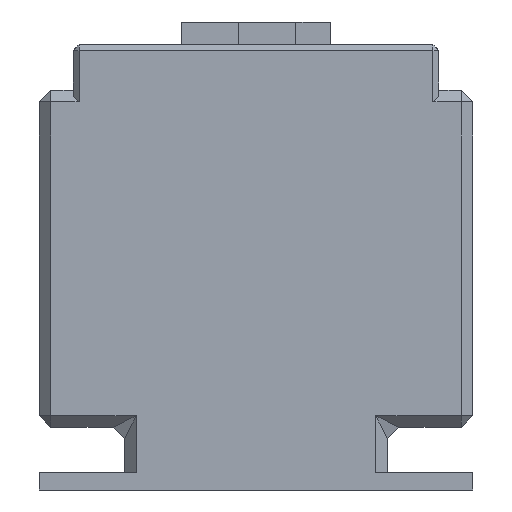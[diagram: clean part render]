
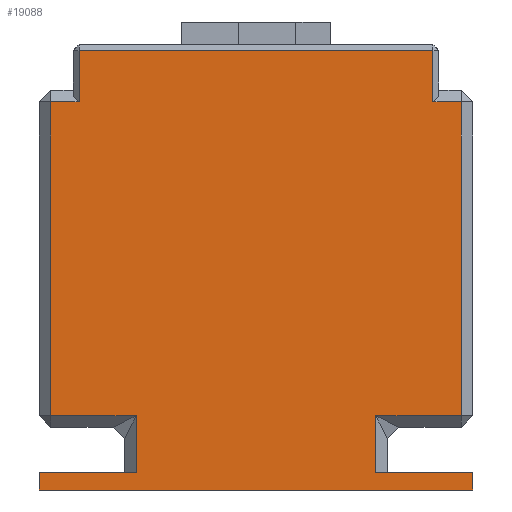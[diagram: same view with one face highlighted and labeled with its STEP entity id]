
A CAD part, left-side view. The second image highlights one B-rep face of the part: STEP entity #19088.
In plain terms, the highlighted planar face has unit normal (-1, 0, 0).
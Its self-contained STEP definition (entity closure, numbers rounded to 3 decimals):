
#2009=FACE_OUTER_BOUND('',#3146,.T.);
#3146=EDGE_LOOP('',(#15641,#15642,#15643,#15644,#15645,#15646,#15647,#15648,
#15649,#15650,#15651,#15652,#15653,#15654,#15655,#15656));
#4842=LINE('',#32024,#6735);
#4844=LINE('',#32027,#6737);
#4848=LINE('',#32037,#6741);
#4878=LINE('',#32100,#6771);
#4880=LINE('',#32103,#6773);
#4886=LINE('',#32112,#6779);
#4895=LINE('',#32128,#6788);
#4930=LINE('',#32201,#6823);
#4933=LINE('',#32206,#6826);
#4937=LINE('',#32212,#6830);
#4941=LINE('',#32220,#6834);
#4945=LINE('',#32228,#6838);
#4946=LINE('',#32230,#6839);
#4947=LINE('',#32232,#6840);
#4948=LINE('',#32234,#6841);
#4949=LINE('',#32235,#6842);
#6735=VECTOR('',#22779,10.);
#6737=VECTOR('',#22783,10.);
#6741=VECTOR('',#22793,10.);
#6771=VECTOR('',#22845,10.);
#6773=VECTOR('',#22849,10.);
#6779=VECTOR('',#22861,10.);
#6788=VECTOR('',#22876,10.);
#6823=VECTOR('',#22941,10.);
#6826=VECTOR('',#22948,10.);
#6830=VECTOR('',#22954,10.);
#6834=VECTOR('',#22962,10.);
#6838=VECTOR('',#22970,10.);
#6839=VECTOR('',#22971,10.);
#6840=VECTOR('',#22972,10.);
#6841=VECTOR('',#22973,10.);
#6842=VECTOR('',#22974,10.);
#8545=VERTEX_POINT('',#32008);
#8547=VERTEX_POINT('',#32017);
#8549=VERTEX_POINT('',#32022);
#8551=VERTEX_POINT('',#32033);
#8558=VERTEX_POINT('',#32050);
#8564=VERTEX_POINT('',#32064);
#8569=VERTEX_POINT('',#32076);
#8577=VERTEX_POINT('',#32124);
#8593=VERTEX_POINT('',#32176);
#8597=VERTEX_POINT('',#32184);
#8599=VERTEX_POINT('',#32193);
#8604=VERTEX_POINT('',#32218);
#8606=VERTEX_POINT('',#32227);
#8607=VERTEX_POINT('',#32229);
#8608=VERTEX_POINT('',#32231);
#8609=VERTEX_POINT('',#32233);
#10967=EDGE_CURVE('',#8549,#8547,#4842,.T.);
#10969=EDGE_CURVE('',#8547,#8545,#4844,.T.);
#10974=EDGE_CURVE('',#8545,#8551,#4848,.T.);
#11004=EDGE_CURVE('',#8551,#8569,#4878,.T.);
#11006=EDGE_CURVE('',#8569,#8564,#4880,.T.);
#11012=EDGE_CURVE('',#8564,#8558,#4886,.T.);
#11021=EDGE_CURVE('',#8558,#8577,#4895,.T.);
#11056=EDGE_CURVE('',#8599,#8597,#4930,.T.);
#11059=EDGE_CURVE('',#8593,#8599,#4933,.T.);
#11063=EDGE_CURVE('',#8597,#8549,#4937,.T.);
#11067=EDGE_CURVE('',#8604,#8593,#4941,.T.);
#11071=EDGE_CURVE('',#8604,#8606,#4945,.T.);
#11072=EDGE_CURVE('',#8607,#8606,#4946,.T.);
#11073=EDGE_CURVE('',#8607,#8608,#4947,.T.);
#11074=EDGE_CURVE('',#8608,#8609,#4948,.T.);
#11075=EDGE_CURVE('',#8609,#8577,#4949,.T.);
#15641=ORIENTED_EDGE('',*,*,#11063,.F.);
#15642=ORIENTED_EDGE('',*,*,#11056,.F.);
#15643=ORIENTED_EDGE('',*,*,#11059,.F.);
#15644=ORIENTED_EDGE('',*,*,#11067,.F.);
#15645=ORIENTED_EDGE('',*,*,#11071,.T.);
#15646=ORIENTED_EDGE('',*,*,#11072,.F.);
#15647=ORIENTED_EDGE('',*,*,#11073,.T.);
#15648=ORIENTED_EDGE('',*,*,#11074,.T.);
#15649=ORIENTED_EDGE('',*,*,#11075,.T.);
#15650=ORIENTED_EDGE('',*,*,#11021,.F.);
#15651=ORIENTED_EDGE('',*,*,#11012,.F.);
#15652=ORIENTED_EDGE('',*,*,#11006,.F.);
#15653=ORIENTED_EDGE('',*,*,#11004,.F.);
#15654=ORIENTED_EDGE('',*,*,#10974,.F.);
#15655=ORIENTED_EDGE('',*,*,#10969,.F.);
#15656=ORIENTED_EDGE('',*,*,#10967,.F.);
#18010=PLANE('',#19991);
#19088=ADVANCED_FACE('',(#2009),#18010,.T.);
#19991=AXIS2_PLACEMENT_3D('',#32226,#22968,#22969);
#22779=DIRECTION('',(0.,0.,1.));
#22783=DIRECTION('',(0.,-1.,0.));
#22793=DIRECTION('',(0.,0.,-1.));
#22845=DIRECTION('',(0.,-1.,0.));
#22849=DIRECTION('',(0.,0.,-1.));
#22861=DIRECTION('',(0.,1.,0.));
#22876=DIRECTION('',(0.,0.,-1.));
#22941=DIRECTION('',(0.,0.,1.));
#22948=DIRECTION('',(0.,1.,0.));
#22954=DIRECTION('',(0.,-1.,0.));
#22962=DIRECTION('',(0.,0.,1.));
#22968=DIRECTION('center_axis',(-1.,0.,0.));
#22969=DIRECTION('ref_axis',(0.,-1.,0.));
#22970=DIRECTION('',(0.,1.,0.));
#22971=DIRECTION('',(0.,0.,1.));
#22972=DIRECTION('',(0.,-1.,0.));
#22973=DIRECTION('',(0.,0.,1.));
#22974=DIRECTION('',(0.,1.,0.));
#32008=CARTESIAN_POINT('',(0.,7.,77.));
#32017=CARTESIAN_POINT('',(0.,69.,77.));
#32022=CARTESIAN_POINT('',(0.,69.,68.));
#32024=CARTESIAN_POINT('',(0.,69.,41.));
#32027=CARTESIAN_POINT('',(0.,57.,77.));
#32033=CARTESIAN_POINT('',(0.,7.,68.));
#32037=CARTESIAN_POINT('',(0.,7.,41.));
#32050=CARTESIAN_POINT('',(0.,17.,13.));
#32064=CARTESIAN_POINT('',(0.,2.,13.));
#32076=CARTESIAN_POINT('',(0.,2.,68.));
#32100=CARTESIAN_POINT('',(0.,39.803,68.));
#32103=CARTESIAN_POINT('',(0.,2.,0.));
#32112=CARTESIAN_POINT('',(0.,38.,13.));
#32124=CARTESIAN_POINT('',(0.,17.,3.));
#32128=CARTESIAN_POINT('',(0.,17.,3.5));
#32176=CARTESIAN_POINT('',(0.,59.,13.));
#32184=CARTESIAN_POINT('',(0.,74.,68.));
#32193=CARTESIAN_POINT('',(0.,74.,13.));
#32201=CARTESIAN_POINT('',(0.,74.,0.));
#32206=CARTESIAN_POINT('',(0.,76.,13.));
#32212=CARTESIAN_POINT('',(0.,74.197,68.));
#32218=CARTESIAN_POINT('',(0.,59.,3.));
#32220=CARTESIAN_POINT('',(0.,59.,3.5));
#32226=CARTESIAN_POINT('Origin',(0.,76.,0.));
#32227=CARTESIAN_POINT('',(0.,76.,3.));
#32228=CARTESIAN_POINT('',(0.,76.,3.));
#32229=CARTESIAN_POINT('',(0.,76.,0.));
#32230=CARTESIAN_POINT('',(0.,76.,0.));
#32231=CARTESIAN_POINT('',(0.,0.,0.));
#32232=CARTESIAN_POINT('',(0.,76.,0.));
#32233=CARTESIAN_POINT('',(0.,0.,3.));
#32234=CARTESIAN_POINT('',(0.,0.,0.));
#32235=CARTESIAN_POINT('',(0.,38.,3.));
